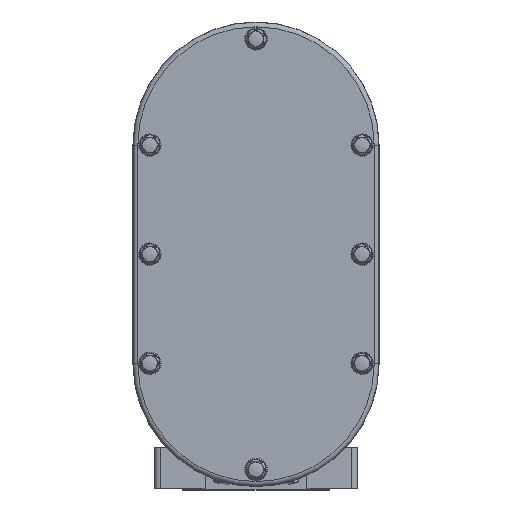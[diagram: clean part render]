
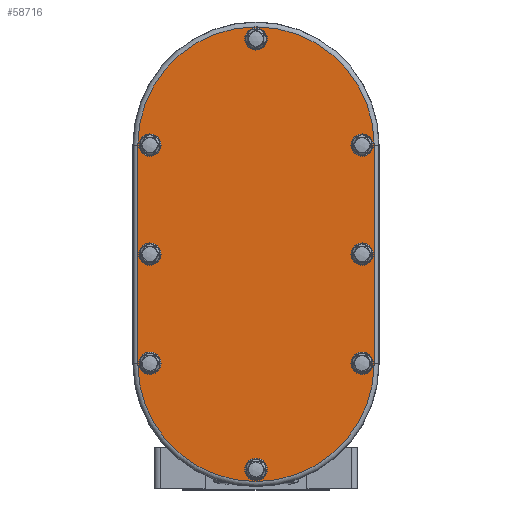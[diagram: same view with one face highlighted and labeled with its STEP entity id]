
A CAD part, top view. The second image highlights one B-rep face of the part: STEP entity #58716.
In plain terms, the highlighted planar face has unit normal (0, 0, 1).
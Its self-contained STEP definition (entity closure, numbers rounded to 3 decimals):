
#88 = CIRCLE ( 'NONE', #5965, 0.222 ) ;
#2165 = VERTEX_POINT ( 'NONE', #23023 ) ;
#2284 = DIRECTION ( 'NONE',  ( 0., 0., 1. ) ) ;
#5965 = AXIS2_PLACEMENT_3D ( 'NONE', #44306, #81243, #52949 ) ;
#6684 = CARTESIAN_POINT ( 'NONE',  ( -0.222, -2.135, 3.975 ) ) ;
#7029 = EDGE_CURVE ( 'NONE', #37846, #37846, #14681, .T. ) ;
#7639 = DIRECTION ( 'NONE',  ( 0., 1., 0. ) ) ;
#7728 = DIRECTION ( 'NONE',  ( 0., 0., 1. ) ) ;
#9840 = ORIENTED_EDGE ( 'NONE', *, *, #57784, .F. ) ;
#10498 = EDGE_LOOP ( 'NONE', ( #114656 ) ) ;
#11009 = EDGE_CURVE ( 'NONE', #2165, #2165, #69421, .T. ) ;
#12023 = EDGE_CURVE ( 'NONE', #115423, #115423, #65258, .T. ) ;
#12883 = ORIENTED_EDGE ( 'NONE', *, *, #121272, .T. ) ;
#13522 = CARTESIAN_POINT ( 'NONE',  ( 2.377, 0., 3.975 ) ) ;
#14345 = DIRECTION ( 'NONE',  ( 0., 0., 1. ) ) ;
#14681 = CIRCLE ( 'NONE', #83461, 0.222 ) ;
#14864 = EDGE_LOOP ( 'NONE', ( #49324 ) ) ;
#16228 = AXIS2_PLACEMENT_3D ( 'NONE', #26180, #63747, #119789 ) ;
#18072 = CIRCLE ( 'NONE', #57345, 0.222 ) ;
#21126 = ORIENTED_EDGE ( 'NONE', *, *, #86091, .F. ) ;
#21806 = CARTESIAN_POINT ( 'NONE',  ( 1.913, 4.388, 3.975 ) ) ;
#21808 = VERTEX_POINT ( 'NONE', #13522 ) ;
#22186 = AXIS2_PLACEMENT_3D ( 'NONE', #121377, #27747, #102265 ) ;
#23023 = CARTESIAN_POINT ( 'NONE',  ( -1.913, 2.194, 3.975 ) ) ;
#24200 = CIRCLE ( 'NONE', #102869, 2.377 ) ;
#25379 = CARTESIAN_POINT ( 'NONE',  ( 0., 0., 3.975 ) ) ;
#25752 = CARTESIAN_POINT ( 'NONE',  ( -2.377, 4.388, 3.975 ) ) ;
#26180 = CARTESIAN_POINT ( 'NONE',  ( 0., 4.388, 3.975 ) ) ;
#26782 = PLANE ( 'NONE',  #16228 ) ;
#26849 = ORIENTED_EDGE ( 'NONE', *, *, #59060, .T. ) ;
#27747 = DIRECTION ( 'NONE',  ( 0., 0., 1. ) ) ;
#28281 = DIRECTION ( 'NONE',  ( 0., 0., 1. ) ) ;
#28466 = ORIENTED_EDGE ( 'NONE', *, *, #120089, .F. ) ;
#28617 = CARTESIAN_POINT ( 'NONE',  ( -2.357, 4.388, 3.975 ) ) ;
#30664 = ORIENTED_EDGE ( 'NONE', *, *, #43326, .T. ) ;
#32833 = LINE ( 'NONE', #101135, #118292 ) ;
#33275 = VECTOR ( 'NONE', #118793, 39.37 ) ;
#33963 = CIRCLE ( 'NONE', #22186, 2.377 ) ;
#34041 = DIRECTION ( 'NONE',  ( 0., 1., 0. ) ) ;
#36530 = DIRECTION ( 'NONE',  ( 0., 0., 1. ) ) ;
#37233 = FACE_BOUND ( 'NONE', #73539, .T. ) ;
#37846 = VERTEX_POINT ( 'NONE', #28617 ) ;
#39659 = CARTESIAN_POINT ( 'NONE',  ( 2.135, 4.388, 3.975 ) ) ;
#39803 = DIRECTION ( 'NONE',  ( 1., 0., 0. ) ) ;
#43153 = VERTEX_POINT ( 'NONE', #79615 ) ;
#43326 = EDGE_CURVE ( 'NONE', #43153, #21808, #24200, .T. ) ;
#44306 = CARTESIAN_POINT ( 'NONE',  ( 2.135, 0., 3.975 ) ) ;
#44658 = CARTESIAN_POINT ( 'NONE',  ( 0., -2.135, 3.975 ) ) ;
#45249 = DIRECTION ( 'NONE',  ( -1., 0., 0. ) ) ;
#48211 = AXIS2_PLACEMENT_3D ( 'NONE', #44658, #82193, #45249 ) ;
#48899 = EDGE_LOOP ( 'NONE', ( #114353 ) ) ;
#49324 = ORIENTED_EDGE ( 'NONE', *, *, #7029, .F. ) ;
#49829 = CARTESIAN_POINT ( 'NONE',  ( 0., 6.745, 3.975 ) ) ;
#50081 = DIRECTION ( 'NONE',  ( -1., 0., 0. ) ) ;
#51064 = CARTESIAN_POINT ( 'NONE',  ( 1.913, 0., 3.975 ) ) ;
#52949 = DIRECTION ( 'NONE',  ( -1., 0., 0. ) ) ;
#52994 = CARTESIAN_POINT ( 'NONE',  ( -2.377, 4.388, 3.975 ) ) ;
#53145 = EDGE_CURVE ( 'NONE', #95946, #43153, #65135, .T. ) ;
#53897 = AXIS2_PLACEMENT_3D ( 'NONE', #72845, #36530, #7639 ) ;
#54355 = EDGE_CURVE ( 'NONE', #102528, #102528, #88, .T. ) ;
#57345 = AXIS2_PLACEMENT_3D ( 'NONE', #102477, #7728, #81589 ) ;
#57784 = EDGE_CURVE ( 'NONE', #89812, #89812, #18072, .T. ) ;
#58298 = CARTESIAN_POINT ( 'NONE',  ( -2.135, 2.194, 3.975 ) ) ;
#58716 = ADVANCED_FACE ( 'NONE', ( #63127, #83422, #93867, #82216, #109943, #121004, #37233, #91445, #110550 ), #26782, .F. ) ;
#59060 = EDGE_CURVE ( 'NONE', #85846, #95946, #33963, .T. ) ;
#59977 = CIRCLE ( 'NONE', #48211, 0.222 ) ;
#63127 = FACE_BOUND ( 'NONE', #14864, .T. ) ;
#63747 = DIRECTION ( 'NONE',  ( 0., 0., -1. ) ) ;
#65135 = LINE ( 'NONE', #25752, #33275 ) ;
#65258 = CIRCLE ( 'NONE', #98646, 0.222 ) ;
#69421 = CIRCLE ( 'NONE', #100479, 0.222 ) ;
#70272 = ORIENTED_EDGE ( 'NONE', *, *, #12023, .F. ) ;
#70896 = VERTEX_POINT ( 'NONE', #80140 ) ;
#72845 = CARTESIAN_POINT ( 'NONE',  ( 0., 6.523, 3.975 ) ) ;
#73539 = EDGE_LOOP ( 'NONE', ( #28466 ) ) ;
#73662 = AXIS2_PLACEMENT_3D ( 'NONE', #118382, #82014, #99880 ) ;
#76241 = EDGE_LOOP ( 'NONE', ( #90610 ) ) ;
#79615 = CARTESIAN_POINT ( 'NONE',  ( -2.377, 0., 3.975 ) ) ;
#80140 = CARTESIAN_POINT ( 'NONE',  ( 1.913, 2.194, 3.975 ) ) ;
#80563 = CARTESIAN_POINT ( 'NONE',  ( -1.913, 0., 3.975 ) ) ;
#81243 = DIRECTION ( 'NONE',  ( 0., 0., 1. ) ) ;
#81589 = DIRECTION ( 'NONE',  ( 1., 0., 0. ) ) ;
#82014 = DIRECTION ( 'NONE',  ( 0., 0., 1. ) ) ;
#82193 = DIRECTION ( 'NONE',  ( 0., 0., 1. ) ) ;
#82216 = FACE_BOUND ( 'NONE', #10498, .T. ) ;
#82356 = DIRECTION ( 'NONE',  ( -1., 0., 0. ) ) ;
#83221 = EDGE_LOOP ( 'NONE', ( #21126 ) ) ;
#83422 = FACE_BOUND ( 'NONE', #118735, .T. ) ;
#83461 = AXIS2_PLACEMENT_3D ( 'NONE', #87605, #14345, #50081 ) ;
#85846 = VERTEX_POINT ( 'NONE', #100769 ) ;
#86091 = EDGE_CURVE ( 'NONE', #70896, #70896, #101185, .T. ) ;
#87605 = CARTESIAN_POINT ( 'NONE',  ( -2.135, 4.388, 3.975 ) ) ;
#89812 = VERTEX_POINT ( 'NONE', #80563 ) ;
#90397 = EDGE_LOOP ( 'NONE', ( #9840 ) ) ;
#90610 = ORIENTED_EDGE ( 'NONE', *, *, #54355, .F. ) ;
#91445 = FACE_BOUND ( 'NONE', #90397, .T. ) ;
#92026 = ORIENTED_EDGE ( 'NONE', *, *, #53145, .T. ) ;
#92520 = EDGE_LOOP ( 'NONE', ( #26849, #92026, #30664, #12883 ) ) ;
#93867 = FACE_BOUND ( 'NONE', #76241, .T. ) ;
#95946 = VERTEX_POINT ( 'NONE', #52994 ) ;
#96594 = VERTEX_POINT ( 'NONE', #49829 ) ;
#98646 = AXIS2_PLACEMENT_3D ( 'NONE', #39659, #114190, #82356 ) ;
#99880 = DIRECTION ( 'NONE',  ( -1., 0., 0. ) ) ;
#99902 = DIRECTION ( 'NONE',  ( -1., 0., 0. ) ) ;
#100479 = AXIS2_PLACEMENT_3D ( 'NONE', #58298, #2284, #39803 ) ;
#100769 = CARTESIAN_POINT ( 'NONE',  ( 2.377, 4.388, 3.975 ) ) ;
#101135 = CARTESIAN_POINT ( 'NONE',  ( 2.377, 4.388, 3.975 ) ) ;
#101185 = CIRCLE ( 'NONE', #73662, 0.222 ) ;
#102265 = DIRECTION ( 'NONE',  ( -1., 0., 0. ) ) ;
#102477 = CARTESIAN_POINT ( 'NONE',  ( -2.135, 0., 3.975 ) ) ;
#102528 = VERTEX_POINT ( 'NONE', #51064 ) ;
#102869 = AXIS2_PLACEMENT_3D ( 'NONE', #25379, #28281, #99902 ) ;
#106998 = CIRCLE ( 'NONE', #53897, 0.222 ) ;
#109943 = FACE_BOUND ( 'NONE', #83221, .T. ) ;
#110550 = FACE_OUTER_BOUND ( 'NONE', #92520, .T. ) ;
#114190 = DIRECTION ( 'NONE',  ( 0., 0., 1. ) ) ;
#114353 = ORIENTED_EDGE ( 'NONE', *, *, #11009, .F. ) ;
#114656 = ORIENTED_EDGE ( 'NONE', *, *, #120848, .F. ) ;
#115423 = VERTEX_POINT ( 'NONE', #21806 ) ;
#118292 = VECTOR ( 'NONE', #34041, 39.37 ) ;
#118382 = CARTESIAN_POINT ( 'NONE',  ( 2.135, 2.194, 3.975 ) ) ;
#118735 = EDGE_LOOP ( 'NONE', ( #70272 ) ) ;
#118793 = DIRECTION ( 'NONE',  ( 0., -1., 0. ) ) ;
#119338 = VERTEX_POINT ( 'NONE', #6684 ) ;
#119789 = DIRECTION ( 'NONE',  ( -1., 0., 0. ) ) ;
#120089 = EDGE_CURVE ( 'NONE', #96594, #96594, #106998, .T. ) ;
#120848 = EDGE_CURVE ( 'NONE', #119338, #119338, #59977, .T. ) ;
#121004 = FACE_BOUND ( 'NONE', #48899, .T. ) ;
#121272 = EDGE_CURVE ( 'NONE', #21808, #85846, #32833, .T. ) ;
#121377 = CARTESIAN_POINT ( 'NONE',  ( 0., 4.388, 3.975 ) ) ;
